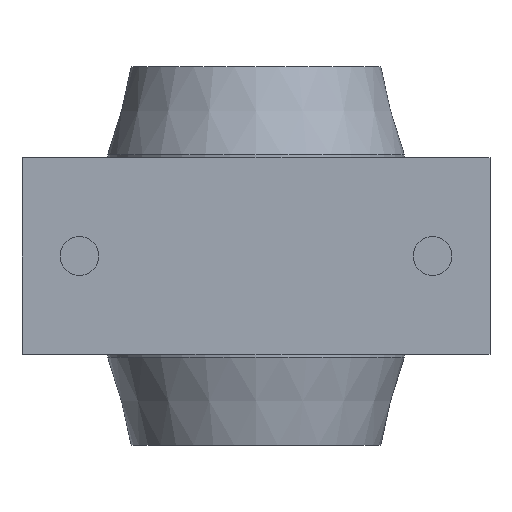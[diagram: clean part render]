
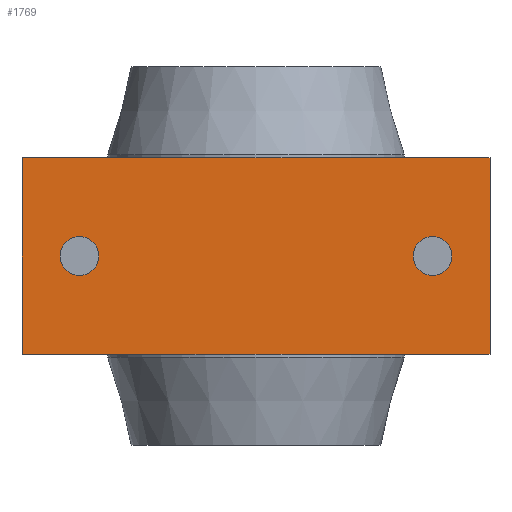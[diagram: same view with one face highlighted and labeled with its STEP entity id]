
A CAD part, front view. The second image highlights one B-rep face of the part: STEP entity #1769.
In plain terms, the highlighted planar face has unit normal (0, -1, 0).
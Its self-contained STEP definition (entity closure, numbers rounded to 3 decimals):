
#110=FACE_BOUND('',#316,.T.);
#111=FACE_BOUND('',#317,.T.);
#145=PLANE('',#2037);
#207=FACE_OUTER_BOUND('',#315,.T.);
#315=EDGE_LOOP('',(#1272,#1273,#1274,#1275));
#316=EDGE_LOOP('',(#1276,#1277));
#317=EDGE_LOOP('',(#1278,#1279));
#442=LINE('',#2936,#533);
#449=LINE('',#2952,#540);
#458=LINE('',#2987,#549);
#459=LINE('',#2989,#550);
#533=VECTOR('',#2306,10.);
#540=VECTOR('',#2319,10.);
#549=VECTOR('',#2362,10.);
#550=VECTOR('',#2365,10.);
#616=CIRCLE('',#1984,4.188);
#617=CIRCLE('',#1985,4.188);
#620=CIRCLE('',#1990,4.188);
#621=CIRCLE('',#1991,4.188);
#731=VERTEX_POINT('',#2865);
#732=VERTEX_POINT('',#2866);
#735=VERTEX_POINT('',#2876);
#736=VERTEX_POINT('',#2877);
#758=VERTEX_POINT('',#2933);
#759=VERTEX_POINT('',#2935);
#764=VERTEX_POINT('',#2949);
#765=VERTEX_POINT('',#2951);
#905=EDGE_CURVE('',#731,#732,#616,.T.);
#906=EDGE_CURVE('',#732,#731,#617,.T.);
#910=EDGE_CURVE('',#735,#736,#620,.T.);
#911=EDGE_CURVE('',#736,#735,#621,.T.);
#938=EDGE_CURVE('',#759,#758,#442,.T.);
#946=EDGE_CURVE('',#765,#764,#449,.T.);
#965=EDGE_CURVE('',#758,#765,#458,.T.);
#966=EDGE_CURVE('',#764,#759,#459,.T.);
#1272=ORIENTED_EDGE('',*,*,#965,.T.);
#1273=ORIENTED_EDGE('',*,*,#946,.T.);
#1274=ORIENTED_EDGE('',*,*,#966,.T.);
#1275=ORIENTED_EDGE('',*,*,#938,.T.);
#1276=ORIENTED_EDGE('',*,*,#905,.T.);
#1277=ORIENTED_EDGE('',*,*,#906,.T.);
#1278=ORIENTED_EDGE('',*,*,#910,.T.);
#1279=ORIENTED_EDGE('',*,*,#911,.T.);
#1769=ADVANCED_FACE('',(#207,#110,#111),#145,.F.);
#1984=AXIS2_PLACEMENT_3D('',#2867,#2232,#2233);
#1985=AXIS2_PLACEMENT_3D('',#2868,#2234,#2235);
#1990=AXIS2_PLACEMENT_3D('',#2878,#2245,#2246);
#1991=AXIS2_PLACEMENT_3D('',#2879,#2247,#2248);
#2037=AXIS2_PLACEMENT_3D('',#2990,#2366,#2367);
#2232=DIRECTION('center_axis',(0.,1.,0.));
#2233=DIRECTION('ref_axis',(-1.,0.,0.));
#2234=DIRECTION('center_axis',(0.,1.,0.));
#2235=DIRECTION('ref_axis',(-1.,0.,0.));
#2245=DIRECTION('center_axis',(0.,1.,0.));
#2246=DIRECTION('ref_axis',(-1.,0.,0.));
#2247=DIRECTION('center_axis',(0.,1.,0.));
#2248=DIRECTION('ref_axis',(-1.,0.,0.));
#2306=DIRECTION('',(1.,0.,0.));
#2319=DIRECTION('',(-1.,0.,0.));
#2362=DIRECTION('',(0.,0.,1.));
#2365=DIRECTION('',(0.,0.,-1.));
#2366=DIRECTION('center_axis',(0.,1.,0.));
#2367=DIRECTION('ref_axis',(0.,0.,1.));
#2865=CARTESIAN_POINT('',(-42.288,-42.9,0.));
#2866=CARTESIAN_POINT('',(-33.912,-42.9,0.));
#2867=CARTESIAN_POINT('Origin',(-38.1,-42.9,0.));
#2868=CARTESIAN_POINT('Origin',(-38.1,-42.9,0.));
#2876=CARTESIAN_POINT('',(33.912,-42.9,0.));
#2877=CARTESIAN_POINT('',(42.288,-42.9,0.));
#2878=CARTESIAN_POINT('Origin',(38.1,-42.9,0.));
#2879=CARTESIAN_POINT('Origin',(38.1,-42.9,0.));
#2933=CARTESIAN_POINT('',(50.5,-42.9,-21.25));
#2935=CARTESIAN_POINT('',(-50.5,-42.9,-21.25));
#2936=CARTESIAN_POINT('',(25.25,-42.9,-21.25));
#2949=CARTESIAN_POINT('',(-50.5,-42.9,21.25));
#2951=CARTESIAN_POINT('',(50.5,-42.9,21.25));
#2952=CARTESIAN_POINT('',(-25.25,-42.9,21.25));
#2987=CARTESIAN_POINT('',(50.5,-42.9,10.625));
#2989=CARTESIAN_POINT('',(-50.5,-42.9,-10.625));
#2990=CARTESIAN_POINT('Origin',(0.,-42.9,0.));
